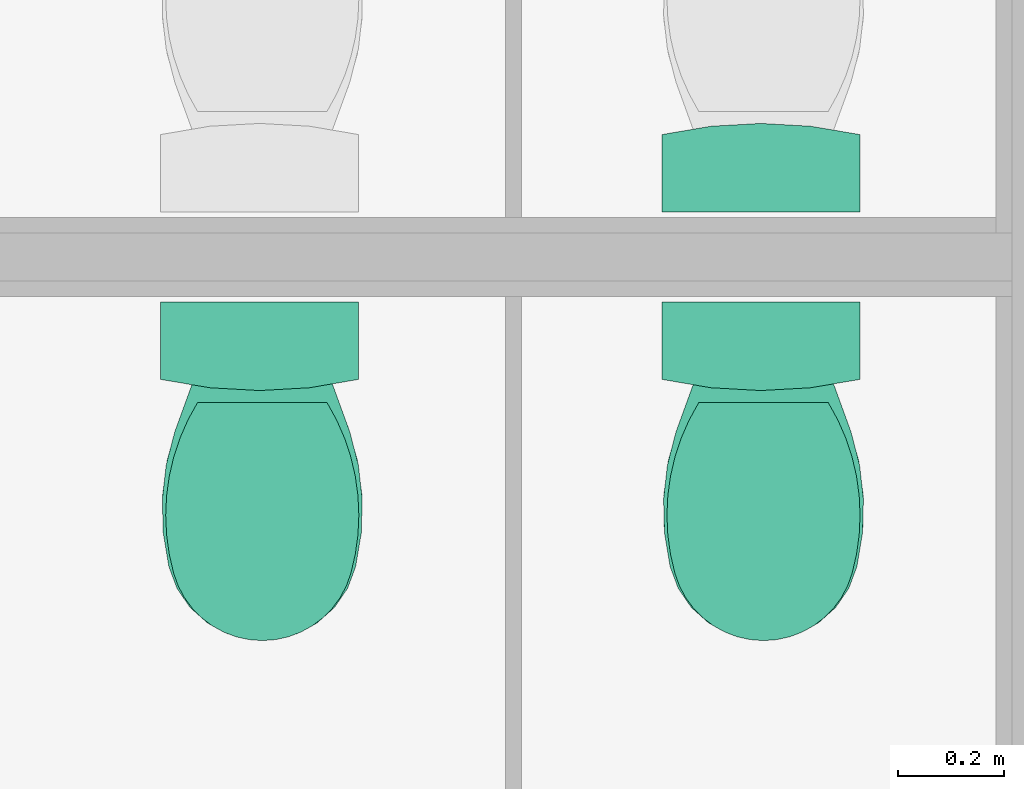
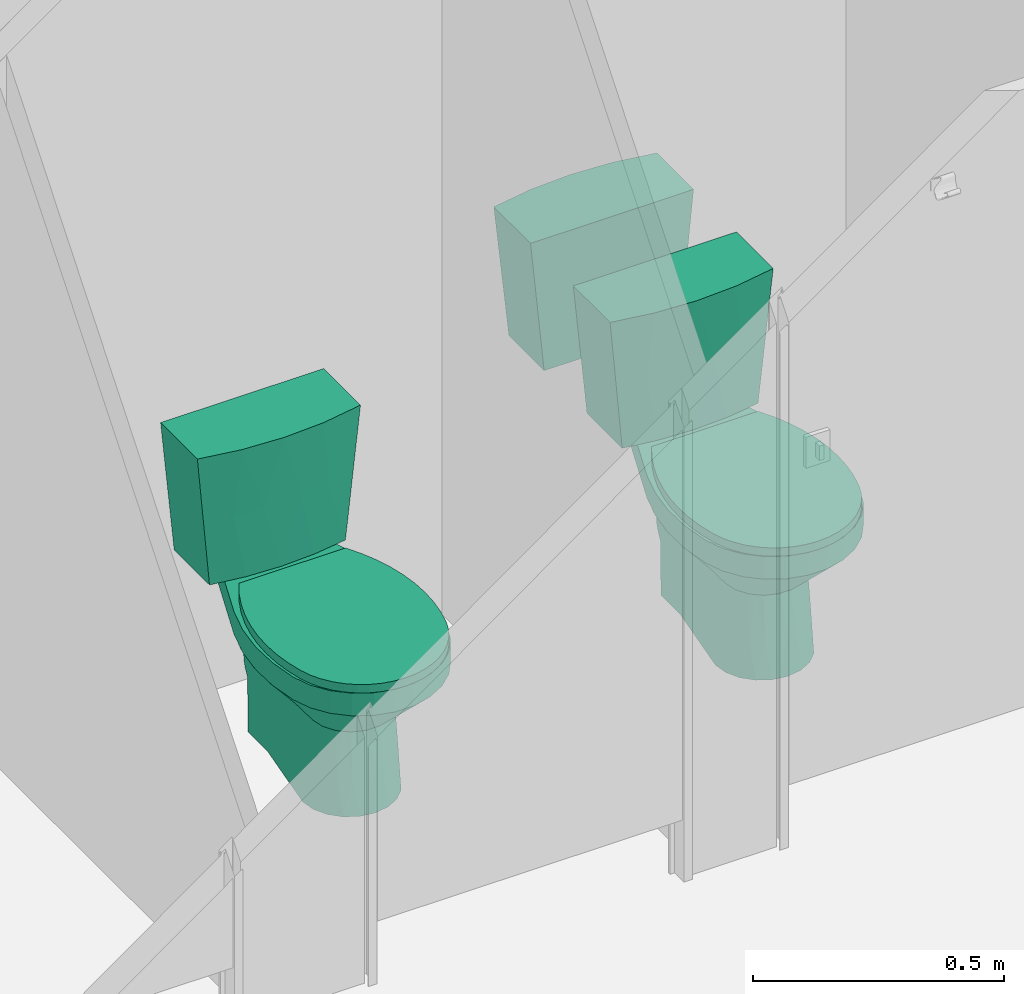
# One storey, part 70 of 155: 7 flow terminals.
"""IFC2X3 building model written with IfcOpenShell, lengths in metres."""

from ifc_helpers import new_model, entity, si_unit, converted_unit, derived_unit, direction, frame, frame_2d, origin, place, context, subcontext, project, spatial, polyline, circle_curve, parameter, trimmed, segment, composite_curve, outline, extrude, faceted_brep, source, transform, mapped, material, element, save


model = new_model("IFC2X3")

# Units and contexts
model_context = context("Model", 3, precision=1e-05, world=origin(), true_north=direction((6.12303176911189e-17, 1.0)))
body_context = subcontext(model_context, "Body", "Model", "MODEL_VIEW")
ifc_project = project(units=[si_unit("LENGTHUNIT", "METRE"), si_unit("AREAUNIT", "SQUARE_METRE"), si_unit("VOLUMEUNIT", "CUBIC_METRE"), converted_unit("PLANEANGLEUNIT", "DEGREE", entity("IfcRatioMeasure", 0.0174532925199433), si_unit("PLANEANGLEUNIT", "RADIAN"), dimensions=[0, 0, 0, 0, 0, 0, 0]), si_unit("MASSUNIT", "GRAM", prefix="KILO"), derived_unit("MASSDENSITYUNIT", [(si_unit("MASSUNIT", "GRAM", prefix="KILO"), 1), (si_unit("LENGTHUNIT", "METRE"), -3)]), si_unit("TIMEUNIT", "SECOND"), si_unit("FREQUENCYUNIT", "HERTZ"), si_unit("THERMODYNAMICTEMPERATUREUNIT", "DEGREE_CELSIUS"), derived_unit("THERMALTRANSMITTANCEUNIT", [(si_unit("MASSUNIT", "GRAM", prefix="KILO"), 1), (si_unit("THERMODYNAMICTEMPERATUREUNIT", "KELVIN"), -1), (si_unit("TIMEUNIT", "SECOND"), -3)]), derived_unit("VOLUMETRICFLOWRATEUNIT", [(si_unit("LENGTHUNIT", "METRE"), 3), (si_unit("TIMEUNIT", "SECOND"), -1)]), si_unit("ELECTRICCURRENTUNIT", "AMPERE"), si_unit("ELECTRICVOLTAGEUNIT", "VOLT"), si_unit("POWERUNIT", "WATT"), si_unit("FORCEUNIT", "NEWTON", prefix="KILO"), si_unit("ILLUMINANCEUNIT", "LUX"), si_unit("LUMINOUSFLUXUNIT", "LUMEN"), si_unit("LUMINOUSINTENSITYUNIT", "CANDELA"), derived_unit("USERDEFINED", [(si_unit("MASSUNIT", "GRAM", prefix="KILO"), -1), (si_unit("LENGTHUNIT", "METRE"), -2), (si_unit("TIMEUNIT", "SECOND"), 3), (si_unit("LUMINOUSFLUXUNIT", "LUMEN"), 1)]), derived_unit("LINEARVELOCITYUNIT", [(si_unit("LENGTHUNIT", "METRE"), 1), (si_unit("TIMEUNIT", "SECOND"), -1)]), si_unit("PRESSUREUNIT", "PASCAL"), derived_unit("USERDEFINED", [(si_unit("LENGTHUNIT", "METRE"), -2), (si_unit("MASSUNIT", "GRAM", prefix="KILO"), 1), (si_unit("TIMEUNIT", "SECOND"), -2)])], contexts=[model_context])

# Site, building, storey, space
site_placement = place(None, frame((26.9889013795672, -17.5624287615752, 0.0)))
site = spatial("IfcSite", under=ifc_project, at=site_placement, Name="Default", CompositionType="ELEMENT")
building_placement = place(site_placement, origin())
building = spatial("IfcBuilding", under=site, at=building_placement, Name="C. C. L. Monsenhor Antônio Sampaio", CompositionType="ELEMENT")
storey_placement = place(building_placement, frame((0.0, 0.0, 1.19999999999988)))
storey = spatial("IfcBuildingStorey", under=building, at=storey_placement, Name="Nível 1.2", CompositionType="ELEMENT", Elevation=1.19999999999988)
space_1_placement = place(storey_placement, origin())
space_1 = spatial("IfcSpace", under=storey, at=space_1_placement, Name="92", CompositionType="ELEMENT", InteriorOrExteriorSpace="INTERNAL")

# Flow terminal
ifc_material_1 = material(Name="Deca CR37 Creme Cerâmica")
shared_shape_1 = source(origin(), body_context, "Body", "Brep", [
    faceted_brep([(0.156041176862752, 0.0, 0.140537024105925), (0.0783916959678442, 0.0, 0.151956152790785), (0.0, 0.0, 0.155774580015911), (-0.0783916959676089, 0.0, 0.151956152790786), (-0.156041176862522, 0.0, 0.140537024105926), (-0.156041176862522, 0.0, 0.0), (0.156041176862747, 0.0, 0.0), (0.187262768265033, 0.320000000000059, 0.146391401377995), (0.187262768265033, 0.320000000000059, 0.0), (-0.187262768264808, 0.320000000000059, 0.0), (-0.187262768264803, 0.320000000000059, 0.146391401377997), (-0.0942242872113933, 0.320000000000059, 0.162205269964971), (0.0, 0.320000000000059, 0.167498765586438), (0.0942242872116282, 0.320000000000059, 0.16220526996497), (-0.171038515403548, 0.153712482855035, 0.143349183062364), (0.172265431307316, 0.166287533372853, 0.143579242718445), (0.107419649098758, 0.153032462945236, 0.154306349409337), (0.0432143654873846, 0.160000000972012, 0.160496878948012), (-0.0432143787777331, 0.160000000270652, 0.160496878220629), (-0.108279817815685, 0.16696754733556, 0.154716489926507)], [[[0, 1, 2, 3, 4, 5, 6]], [[7, 8, 9, 10, 11, 12, 13]], [[9, 5, 4, 14, 10]], [[6, 8, 7, 15, 0]], [[5, 9, 8, 6]], [[0, 15, 7, 16]], [[13, 16, 7]], [[13, 12, 17]], [[16, 13, 17]], [[16, 17, 1]], [[18, 17, 12]], [[17, 2, 1]], [[19, 18, 11]], [[3, 19, 4]], [[10, 19, 11]], [[11, 18, 12]], [[18, 19, 3]], [[0, 16, 1]], [[2, 17, 18]], [[10, 14, 4, 19]], [[2, 18, 3]]]),
])
flow_terminal_placement = place(space_1_placement, frame((-0.865552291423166, -12.5930663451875, 0.380000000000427), z_axis=(0.0, 1.0, 0.0), x_axis=(-1.0, 0.0, 0.0)))
element("IfcFlowTerminal", 1, at=flow_terminal_placement, inside=space_1, material=ifc_material_1, Name="Caixa de Descarga Acoplada:Caixa de Descarga Acoplada", ObjectType="Caixa de Descarga Acoplada", context=body_context, shape_type="MappedRepresentation", body=[
    mapped(shared_shape_1, transform((0.0, 0.0, 0.0), scale=1.0)),
])

# Space
space_2_placement = place(storey_placement, origin())
space_2 = spatial("IfcSpace", under=storey, at=space_2_placement, Name="93", CompositionType="ELEMENT", InteriorOrExteriorSpace="INTERNAL")

# Flow terminals
shared_shape_2 = source(origin(), body_context, "Body", "Brep", [
    faceted_brep([(0.268160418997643, 0.380000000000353, 0.118207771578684), (0.268160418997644, 0.380000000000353, 0.1938965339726), (0.268160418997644, 0.313331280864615, 0.193201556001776), (0.268160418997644, 0.24666007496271, 0.192953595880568), (0.268160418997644, 0.180000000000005, 0.193896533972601), (0.268160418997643, 0.0549999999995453, 0.140707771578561), (0.268160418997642, 0.0549999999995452, 0.00159527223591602), (0.268160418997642, 0.0698988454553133, 0.0100176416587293), (0.268160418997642, 0.0823512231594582, 0.0217586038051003), (0.268160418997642, 0.0916344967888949, 0.0361368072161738), (0.268160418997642, 0.0972099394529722, 0.0523178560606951), (0.268160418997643, 0.0987539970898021, 0.0693627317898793), (0.268160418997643, 0.179999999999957, 0.102188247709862), (0.268160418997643, 0.19786747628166, 0.0997541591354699), (0.268160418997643, 0.215838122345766, 0.101246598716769), (0.268160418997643, 0.233059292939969, 0.10659475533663), (0.268160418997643, 0.248713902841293, 0.11554487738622), (0.113406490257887, 0.0916344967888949, 0.0361368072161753), (0.113406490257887, 0.0823512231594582, 0.0217586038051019), (0.113406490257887, 0.0698988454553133, 0.0100176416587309), (0.113406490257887, 0.0549999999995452, 0.00159527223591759), (0.113406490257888, 0.0549999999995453, 0.140707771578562), (0.113406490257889, 0.180000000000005, 0.193896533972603), (0.113406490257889, 0.246666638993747, 0.194094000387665), (0.113406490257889, 0.313333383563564, 0.194043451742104), (0.113406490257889, 0.380000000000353, 0.193896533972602), (0.113406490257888, 0.380000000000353, 0.118207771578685), (0.113406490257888, 0.248713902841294, 0.115544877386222), (0.113406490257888, 0.233059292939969, 0.106594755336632), (0.113406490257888, 0.215838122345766, 0.101246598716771), (0.113406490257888, 0.19786747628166, 0.0997541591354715), (0.113406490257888, 0.179999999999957, 0.102188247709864), (0.113406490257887, 0.0987539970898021, 0.0693627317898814), (0.113406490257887, 0.0972099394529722, 0.0523178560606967), (0.252339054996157, 0.380000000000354, 0.467840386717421), (0.275610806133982, 0.380000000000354, 0.444568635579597), (0.290552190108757, 0.380000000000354, 0.415244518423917), (0.295700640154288, 0.380000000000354, 0.382738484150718), (0.281970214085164, 0.380000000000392, 0.288317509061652), (0.105710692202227, 0.380000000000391, 0.24571892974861), (0.0979976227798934, 0.380000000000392, 0.297541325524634), (0.085317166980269, 0.380000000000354, 0.382738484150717), (0.0904656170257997, 0.380000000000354, 0.415244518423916), (0.105407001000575, 0.380000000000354, 0.444568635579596), (0.128678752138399, 0.380000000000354, 0.467840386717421), (0.158002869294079, 0.380000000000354, 0.482781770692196), (0.190508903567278, 0.380000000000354, 0.487930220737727), (0.206761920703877, 0.380000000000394, 0.485355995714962), (0.223014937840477, 0.380000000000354, 0.482781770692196), (0.27929222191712, 0.179999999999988, 0.393896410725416), (0.273106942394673, 0.179999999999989, 0.423407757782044), (0.257407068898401, 0.179999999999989, 0.449150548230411), (0.245704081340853, 0.179999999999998, 0.458654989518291), (0.234001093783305, 0.179999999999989, 0.468159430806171), (0.205585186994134, 0.179999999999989, 0.47824474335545), (0.175432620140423, 0.179999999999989, 0.47824474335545), (0.161224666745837, 0.179999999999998, 0.473202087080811), (0.147016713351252, 0.179999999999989, 0.468159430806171), (0.123610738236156, 0.179999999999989, 0.449150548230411), (0.107910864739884, 0.179999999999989, 0.423407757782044), (0.101725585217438, 0.179999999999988, 0.393896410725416), (0.104935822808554, 0.179999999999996, 0.339012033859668), (0.107574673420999, 0.179999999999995, 0.293896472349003), (0.271287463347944, 0.179999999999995, 0.249045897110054), (0.274335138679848, 0.179999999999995, 0.304195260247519), (0.098784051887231, 0.290142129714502, 0.330769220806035), (0.105110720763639, 0.283569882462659, 0.273844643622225), (0.0934222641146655, 0.281208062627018, 0.388250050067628), (0.0953872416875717, 0.257257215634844, 0.389586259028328), (0.274339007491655, 0.279255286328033, 0.255685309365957), (0.280137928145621, 0.282802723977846, 0.312510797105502), (0.287496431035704, 0.280000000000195, 0.388317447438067), (0.285630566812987, 0.25725723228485, 0.389586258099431), (0.0966193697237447, 0.275039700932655, 0.409632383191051), (0.121774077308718, 0.29110573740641, 0.45601571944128), (0.109893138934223, 0.271267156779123, 0.439731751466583), (0.233838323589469, 0.291843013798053, 0.474126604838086), (0.259243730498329, 0.291105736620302, 0.456015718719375), (0.271124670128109, 0.271267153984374, 0.4397317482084), (0.165732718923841, 0.276826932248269, 0.480372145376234), (0.284398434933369, 0.275039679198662, 0.40963238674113), (0.137585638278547, 0.278929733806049, 0.46796088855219), (0.212957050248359, 0.281586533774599, 0.481168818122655), (0.186508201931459, 0.26973608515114, 0.483217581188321)], [[[0, 1, 2, 3, 4, 5, 6, 7, 8, 9, 10, 11, 12, 13, 14, 15, 16]], [[17, 18, 19, 20, 21, 22, 23, 24, 25, 26, 27, 28, 29, 30, 31, 32, 33]], [[20, 6, 5, 21]], [[34, 35, 36, 37, 38, 1, 0, 26, 25, 39, 40, 41, 42, 43, 44, 45, 46, 47, 48]], [[26, 0, 16, 27]], [[15, 28, 27, 16]], [[29, 28, 15, 14]], [[13, 12, 31, 30]], [[14, 13, 30, 29]], [[31, 12, 11, 32]], [[33, 32, 11, 10]], [[17, 33, 10, 9]], [[9, 8, 18, 17]], [[19, 18, 8, 7]], [[20, 19, 7, 6]], [[21, 5, 4, 22]], [[49, 50, 51, 52, 53, 54, 55, 56, 57, 58, 59, 60, 61, 62, 22, 4, 63, 64]], [[62, 61, 65]], [[62, 65, 66]], [[22, 66, 23]], [[39, 66, 40]], [[65, 67, 41]], [[61, 60, 68, 67]], [[39, 25, 24]], [[66, 39, 24]], [[22, 62, 66]], [[66, 24, 23]], [[40, 66, 65]], [[40, 65, 41]], [[67, 65, 61]], [[69, 1, 38]], [[70, 38, 37]], [[3, 2, 69]], [[69, 2, 1]], [[70, 37, 71, 72, 49]], [[64, 70, 49]], [[69, 38, 70]], [[64, 69, 70]], [[69, 63, 3]], [[4, 3, 63]], [[69, 64, 63]], [[59, 73, 60]], [[73, 42, 41]], [[44, 43, 74]], [[58, 74, 75]], [[52, 76, 53]], [[43, 42, 75]], [[35, 77, 78]], [[56, 55, 79]], [[68, 60, 73, 41, 67]], [[80, 49, 72, 71, 37]], [[43, 75, 74]], [[81, 74, 58]], [[44, 81, 45]], [[44, 74, 81]], [[81, 79, 45]], [[73, 59, 75]], [[56, 79, 81]], [[75, 59, 58]], [[53, 76, 82]], [[76, 34, 48]], [[78, 80, 36]], [[83, 82, 47]], [[54, 53, 82]], [[77, 35, 34]], [[54, 82, 83]], [[80, 50, 49]], [[47, 82, 48]], [[76, 48, 82]], [[79, 83, 46]], [[79, 55, 83]], [[34, 76, 77]], [[77, 51, 78]], [[47, 46, 83]], [[45, 79, 46]], [[56, 81, 57]], [[83, 55, 54]], [[77, 76, 52]], [[51, 77, 52]], [[57, 81, 58]], [[35, 78, 36]], [[78, 51, 50]], [[42, 73, 75]], [[50, 80, 78]], [[36, 80, 37]]]),
    faceted_brep([(0.278810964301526, 0.0549999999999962, 0.00159527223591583), (0.102206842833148, 0.0549999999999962, 0.00159527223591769), (0.0249993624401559, 0.0549999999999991, 0.214136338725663), (0.00887872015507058, 0.055, 0.276529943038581), (0.001595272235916, 0.0550000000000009, 0.340559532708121), (0.00329068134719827, 0.0550000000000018, 0.404979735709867), (0.0139319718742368, 0.0550000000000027, 0.46853758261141), (0.0293015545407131, 0.0550000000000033, 0.50973851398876), (0.0541240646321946, 0.0550000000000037, 0.546037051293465), (0.0869439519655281, 0.0550000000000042, 0.575304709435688), (0.1258367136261, 0.0550000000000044, 0.595825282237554), (0.168521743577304, 0.0550000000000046, 0.606395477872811), (0.212496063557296, 0.0550000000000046, 0.606395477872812), (0.2551810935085, 0.0550000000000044, 0.595825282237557), (0.294073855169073, 0.0550000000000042, 0.575304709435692), (0.326893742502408, 0.0550000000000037, 0.546037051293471), (0.351716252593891, 0.0550000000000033, 0.509738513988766), (0.367085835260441, 0.0550000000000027, 0.468537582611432), (0.377727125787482, 0.0550000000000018, 0.404979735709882), (0.379422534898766, 0.0550000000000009, 0.340559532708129), (0.37213908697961, 0.055, 0.276529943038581), (0.356018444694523, 0.0549999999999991, 0.21413633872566), (0.326893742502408, 0.0, 0.546037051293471), (0.294073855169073, 0.0, 0.575304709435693), (0.2551810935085, 0.0, 0.595825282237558), (0.212496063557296, 0.0, 0.606395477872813), (0.168521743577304, 0.0, 0.606395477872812), (0.1258367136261, 0.0, 0.595825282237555), (0.0869439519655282, 0.0, 0.575304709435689), (0.0541240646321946, 0.0, 0.546037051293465), (0.0293015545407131, 0.0, 0.50973851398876), (0.0139319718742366, 0.0, 0.468537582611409), (0.00329068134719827, 0.0, 0.404979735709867), (0.001595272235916, 0.0, 0.340559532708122), (0.00887872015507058, 0.0, 0.276529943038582), (0.0249993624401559, 0.0, 0.214136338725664), (0.102206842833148, 0.0, 0.00159527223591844), (0.278810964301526, 0.0, 0.00159527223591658), (0.356018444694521, 0.0, 0.214136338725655), (0.37213908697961, 0.0, 0.276529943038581), (0.379422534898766, 0.0, 0.340559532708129), (0.377727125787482, 0.0, 0.404979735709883), (0.367085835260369, 0.0, 0.468537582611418), (0.351716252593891, 0.0, 0.509738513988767)], [[[0, 1, 2, 3, 4, 5, 6, 7, 8, 9, 10, 11, 12, 13, 14, 15, 16, 17, 18, 19, 20, 21]], [[22, 23, 24, 25, 26, 27, 28, 29, 30, 31, 32, 33, 34, 35, 36, 37, 38, 39, 40, 41, 42, 43]], [[35, 2, 1, 36]], [[36, 1, 0, 37]], [[37, 0, 21, 38]], [[20, 19, 40, 39]], [[38, 21, 20, 39]], [[18, 17, 42, 41]], [[19, 18, 41, 40]], [[42, 17, 16, 43]], [[43, 16, 15, 22]], [[24, 23, 14, 13]], [[14, 23, 22, 15]], [[25, 24, 13, 12]], [[12, 11, 26, 25]], [[9, 28, 27, 10]], [[10, 27, 26, 11]], [[30, 29, 8, 7]], [[28, 9, 8, 29]], [[31, 30, 7, 6]], [[5, 4, 33, 32]], [[31, 6, 5, 32]], [[3, 2, 35, 34]], [[4, 3, 34, 33]]]),
    faceted_brep([(0.00190963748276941, 0.0549999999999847, 0.334308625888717), (0.0106813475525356, 0.0549999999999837, 0.267316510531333), (0.0291285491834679, 0.0549999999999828, 0.202319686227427), (0.0568568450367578, 0.054999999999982, 0.140707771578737), (0.32416096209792, 0.054999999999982, 0.140707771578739), (0.351889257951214, 0.0549999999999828, 0.202319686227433), (0.370336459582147, 0.0549999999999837, 0.267316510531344), (0.379108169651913, 0.0549999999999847, 0.334308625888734), (0.378016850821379, 0.0549999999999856, 0.401863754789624), (0.36708583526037, 0.0549999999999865, 0.468537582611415), (0.351716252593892, 0.0549999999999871, 0.509738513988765), (0.326893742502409, 0.0549999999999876, 0.546037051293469), (0.294073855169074, 0.054999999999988, 0.575304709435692), (0.255181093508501, 0.0549999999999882, 0.595825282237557), (0.212496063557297, 0.0549999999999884, 0.606395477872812), (0.168521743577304, 0.0549999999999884, 0.606395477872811), (0.1258367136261, 0.0549999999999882, 0.595825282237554), (0.0869439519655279, 0.054999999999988, 0.575304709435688), (0.0541240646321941, 0.0549999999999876, 0.546037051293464), (0.0293015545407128, 0.0549999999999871, 0.509738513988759), (0.0139319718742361, 0.0549999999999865, 0.468537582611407), (0.00300095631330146, 0.0549999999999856, 0.401863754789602), (0.11342376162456, 0.179999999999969, 0.193896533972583), (0.11049921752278, 0.179999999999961, 0.24389650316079), (0.107574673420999, 0.179999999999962, 0.293896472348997), (0.104650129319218, 0.179999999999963, 0.343896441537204), (0.101725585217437, 0.179999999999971, 0.393896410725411), (0.107910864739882, 0.179999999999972, 0.42340775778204), (0.123610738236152, 0.179999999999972, 0.449150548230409), (0.1353137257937, 0.179999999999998, 0.45865498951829), (0.147016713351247, 0.179999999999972, 0.468159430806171), (0.175432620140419, 0.179999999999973, 0.478244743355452), (0.20558518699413, 0.179999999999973, 0.478244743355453), (0.234001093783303, 0.179999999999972, 0.468159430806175), (0.245704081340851, 0.179999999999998, 0.458654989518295), (0.2574070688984, 0.179999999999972, 0.449150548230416), (0.273106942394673, 0.179999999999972, 0.423407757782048), (0.27929222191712, 0.179999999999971, 0.393896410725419), (0.276529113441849, 0.179999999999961, 0.34389644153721), (0.273766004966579, 0.179999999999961, 0.293896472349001), (0.271002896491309, 0.17999999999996, 0.243896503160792), (0.268239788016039, 0.179999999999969, 0.193896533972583), (0.291656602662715, 0.127656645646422, 0.17162390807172), (0.307908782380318, 0.091328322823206, 0.15616583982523), (0.0733060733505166, 0.091349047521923, 0.156174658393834), (0.0897553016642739, 0.127698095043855, 0.171641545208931), (0.319208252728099, 0.109492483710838, 0.227274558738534), (0.301825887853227, 0.14804688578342, 0.324994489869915), (0.29696767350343, 0.148046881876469, 0.266380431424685), (0.326006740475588, 0.116093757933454, 0.297350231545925), (0.334403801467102, 0.10949248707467, 0.369343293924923), (0.292104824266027, 0.145256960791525, 0.219552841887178), (0.316055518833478, 0.127656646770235, 0.425152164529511), (0.335161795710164, 0.100453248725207, 0.441396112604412), (0.341570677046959, 0.0913283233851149, 0.446844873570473), (0.30510677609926, 0.145256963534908, 0.372928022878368), (0.0467077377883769, 0.10952356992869, 0.369338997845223), (0.0394616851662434, 0.0913490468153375, 0.446832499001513), (0.0458560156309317, 0.100453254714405, 0.441396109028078), (0.0649913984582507, 0.12769809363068, 0.425127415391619), (0.084350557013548, 0.148046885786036, 0.266380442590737), (0.0793721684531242, 0.148046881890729, 0.324994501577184), (0.0551688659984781, 0.116093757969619, 0.297350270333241), (0.0620458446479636, 0.10952357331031, 0.227275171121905), (0.0759980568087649, 0.145263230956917, 0.372914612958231), (0.089299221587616, 0.145263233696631, 0.219565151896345), (0.0730163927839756, 0.11280069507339, 0.482893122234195), (0.0711556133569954, 0.128485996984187, 0.447531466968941), (0.190508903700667, 0.120856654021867, 0.540189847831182), (0.224981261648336, 0.114814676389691, 0.541965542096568), (0.10885067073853, 0.113642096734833, 0.520707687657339), (0.130559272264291, 0.115343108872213, 0.531942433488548), (0.309862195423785, 0.12848599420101, 0.447531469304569), (0.15603654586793, 0.114814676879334, 0.541965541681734), (0.0912929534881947, 0.115800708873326, 0.502321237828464), (0.250458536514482, 0.115343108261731, 0.531942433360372), (0.289724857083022, 0.115800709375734, 0.50232123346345), (0.308001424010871, 0.112800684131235, 0.482893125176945), (0.272167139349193, 0.113642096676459, 0.520707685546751)], [[[0, 1, 2, 3, 4, 5, 6, 7, 8, 9, 10, 11, 12, 13, 14, 15, 16, 17, 18, 19, 20, 21]], [[22, 23, 24, 25, 26, 27, 28, 29, 30, 31, 32, 33, 34, 35, 36, 37, 38, 39, 40, 41]], [[22, 41, 42, 43, 4, 3, 44, 45]], [[42, 46, 43]], [[47, 48, 39]], [[7, 6, 49]], [[7, 50, 8]], [[43, 46, 5]], [[48, 46, 51]], [[49, 46, 48]], [[50, 52, 53, 54]], [[47, 39, 38]], [[46, 6, 5]], [[5, 4, 43]], [[38, 37, 55]], [[55, 47, 38]], [[46, 49, 6]], [[8, 50, 54]], [[54, 9, 8]], [[7, 49, 50]], [[39, 48, 40]], [[41, 51, 42]], [[51, 40, 48]], [[49, 48, 47]], [[40, 51, 41]], [[42, 51, 46]], [[47, 50, 49]], [[52, 50, 55]], [[47, 55, 50]], [[52, 55, 37]], [[56, 57, 58, 59]], [[60, 61, 24]], [[1, 0, 62]], [[1, 63, 2]], [[57, 56, 21]], [[61, 56, 64]], [[62, 56, 61]], [[44, 63, 45]], [[60, 24, 23]], [[56, 0, 21]], [[21, 20, 57]], [[23, 22, 65]], [[65, 60, 23]], [[56, 62, 0]], [[2, 63, 44]], [[44, 3, 2]], [[1, 62, 63]], [[24, 61, 25]], [[26, 64, 59]], [[64, 25, 61]], [[62, 61, 60]], [[25, 64, 26]], [[59, 64, 56]], [[60, 63, 62]], [[45, 63, 65]], [[60, 65, 63]], [[45, 65, 22]], [[66, 27, 67]], [[32, 68, 69]], [[70, 71, 29]], [[72, 53, 52, 37]], [[31, 73, 68]], [[28, 66, 74]], [[36, 72, 37]], [[31, 30, 73]], [[68, 32, 31]], [[26, 67, 27]], [[18, 66, 19]], [[19, 58, 57, 20]], [[74, 66, 18]], [[30, 71, 73]], [[14, 69, 68]], [[10, 9, 54, 53]], [[16, 15, 73]], [[70, 74, 17]], [[68, 73, 15]], [[71, 17, 16]], [[69, 75, 33]], [[76, 11, 77]], [[77, 36, 35]], [[74, 18, 17]], [[28, 70, 29]], [[35, 34, 78]], [[30, 29, 71]], [[71, 16, 73]], [[14, 13, 69]], [[69, 13, 75]], [[75, 13, 12]], [[78, 76, 35]], [[77, 35, 76]], [[11, 10, 77]], [[66, 67, 19]], [[27, 66, 28]], [[72, 77, 10]], [[58, 19, 67]], [[67, 26, 59, 58]], [[68, 15, 14]], [[36, 77, 72]], [[32, 69, 33]], [[53, 72, 10]], [[76, 12, 11]], [[34, 33, 75]], [[12, 76, 78]], [[28, 74, 70]], [[70, 17, 71]], [[78, 75, 12]], [[75, 78, 34]]]),
])
for number, where, z_axis, x_axis, name in (
    (2, (-1.61764184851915, -12.7948585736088, 0.380000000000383), (0.0, -1.0, 0.0), (-1.0, 0.0, 0.0), "Bacia para Caixa Acoplada:P.750_Creme CR37_Acionamento Simples 6lpf"),
    (3, (-0.670043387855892, -12.7948585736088, 0.380000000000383), (0.0, -1.0, 0.0), (-1.0, 0.0, 0.0), "Bacia para Caixa Acoplada:P.750_Creme CR37_Acionamento Simples 6lpf"),
):
    element("IfcFlowTerminal", number, at=place(space_2_placement, frame(where, z_axis=z_axis, x_axis=x_axis)), inside=space_2, material=ifc_material_1, Name=name, ObjectType="P.750_Creme CR37_Acionamento Simples 6lpf", context=body_context, shape_type="MappedRepresentation", body=[
        mapped(shared_shape_2, transform((0.0, 0.0, 0.0), scale=1.0)),
    ])
ifc_material_2 = material(Name="Deca GE17 Branco Gelo Plástico")
shared_shape_3 = source(origin(), body_context, "Body", "SweptSolid", [
    extrude(outline(composite_curve([segment(trimmed(circle_curve(frame_2d((-0.195877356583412, 0.120829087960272), x_axis=(1.0, 0.0)), 0.406949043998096), [parameter(309.687623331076)], [parameter(356.917468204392)], True, "PARAMETER"), True, "CONTINUOUS"), segment(trimmed(circle_curve(frame_2d((0.0368457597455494, 0.108296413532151), x_axis=(-0.946706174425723, 0.322098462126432)), 0.173888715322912), [parameter(195.707346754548)], [parameter(344.292653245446)], True, "PARAMETER"), True, "CONTINUOUS"), segment(trimmed(circle_curve(frame_2d((0.2289232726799, -0.0237011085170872), x_axis=(-0.792505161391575, 0.609865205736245)), 0.406949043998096), [parameter(3.08253179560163)], [parameter(50.3123766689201)], True, "PARAMETER"), True, "CONTINUOUS"), segment(polyline([(-0.168018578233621, -0.113393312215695), (0.0640009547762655, -0.19233346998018)]), True, "CONTINUOUS")], self_intersect=False)), frame((0.0, -0.021064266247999, 0.151312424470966), z_axis=(0.0, 1.0, 0.0), x_axis=(-0.946706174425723, 0.0, 0.322098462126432)), (0.0, 0.0, 1.0), 0.0202797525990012),
])
for number, where, z_axis, x_axis, name in (
    (4, (-1.80815075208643, -12.9636913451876, 0.380000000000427), (0.0, -1.0, 0.0), (-1.0, 0.0, 0.0), "Assento para Bacia Sanitária:Assento para Bacia Sanitária"),
    (5, (-0.860552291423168, -12.9636913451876, 0.380000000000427), (0.0, -1.0, 0.0), (-1.0, 0.0, 0.0), "Assento para Bacia Sanitária:Assento para Bacia Sanitária"),
):
    element("IfcFlowTerminal", number, at=place(space_2_placement, frame(where, z_axis=z_axis, x_axis=x_axis)), inside=space_2, material=ifc_material_2, Name=name, ObjectType="Assento para Bacia Sanitária", context=body_context, shape_type="MappedRepresentation", body=[
        mapped(shared_shape_3, transform((0.0, 0.0, 0.0), scale=1.0)),
    ])
shared_shape_4 = source(origin(), body_context, "Body", "Brep", [
    faceted_brep([(0.156041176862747, 0.0, 0.0), (-0.156041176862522, 0.0, 0.0), (-0.156041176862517, 0.0, 0.140537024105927), (-0.0783916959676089, 0.0, 0.151956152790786), (0.0, 0.0, 0.155774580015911), (0.0783916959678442, 0.0, 0.151956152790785), (0.156041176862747, 0.0, 0.140537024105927), (0.0942242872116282, -0.320000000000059, 0.16220526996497), (0.0, -0.320000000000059, 0.167498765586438), (-0.0942242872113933, -0.320000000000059, 0.162205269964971), (-0.187262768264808, -0.320000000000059, 0.146391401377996), (-0.187262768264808, -0.320000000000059, 0.0), (0.187262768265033, -0.320000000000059, 0.0), (0.187262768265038, -0.320000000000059, 0.146391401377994), (-0.171038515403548, -0.153712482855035, 0.143349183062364), (0.172265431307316, -0.166287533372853, 0.143579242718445), (0.107419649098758, -0.153032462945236, 0.154306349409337), (0.0432143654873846, -0.160000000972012, 0.160496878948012), (-0.0432143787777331, -0.160000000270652, 0.160496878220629), (-0.108279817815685, -0.16696754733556, 0.154716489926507)], [[[0, 1, 2, 3, 4, 5, 6]], [[7, 8, 9, 10, 11, 12, 13]], [[11, 10, 14, 2, 1]], [[6, 15, 13, 12, 0]], [[0, 12, 11, 1]], [[16, 13, 15, 6]], [[13, 16, 7]], [[17, 8, 7]], [[17, 7, 16]], [[5, 17, 16]], [[8, 17, 18]], [[5, 4, 17]], [[9, 18, 19]], [[2, 19, 3]], [[9, 19, 10]], [[8, 18, 9]], [[3, 19, 18]], [[5, 16, 6]], [[18, 17, 4]], [[19, 2, 14, 10]], [[3, 18, 4]]]),
])
for number, where, z_axis, x_axis in (
    (6, (-1.81315075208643, -12.7630663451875, 0.380000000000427), (0.0, -1.0, 0.0), (-1.0, 0.0, 0.0)),
    (7, (-0.865552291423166, -12.7630663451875, 0.380000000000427), (0.0, -1.0, 0.0), (-1.0, 0.0, 0.0)),
):
    element("IfcFlowTerminal", number, at=place(space_2_placement, frame(where, z_axis=z_axis, x_axis=x_axis)), inside=space_2, material=ifc_material_1, Name="Caixa de Descarga Acoplada:Caixa de Descarga Acoplada", ObjectType="Caixa de Descarga Acoplada", context=body_context, shape_type="MappedRepresentation", body=[
        mapped(shared_shape_4, transform((0.0, 0.0, 0.0), scale=1.0)),
    ])

save(model, "model.ifc")
